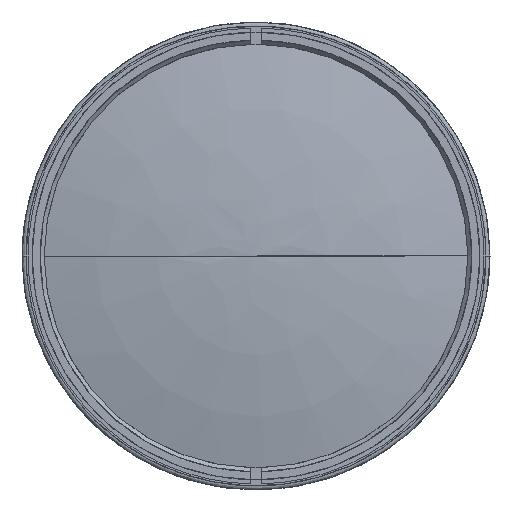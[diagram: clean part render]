
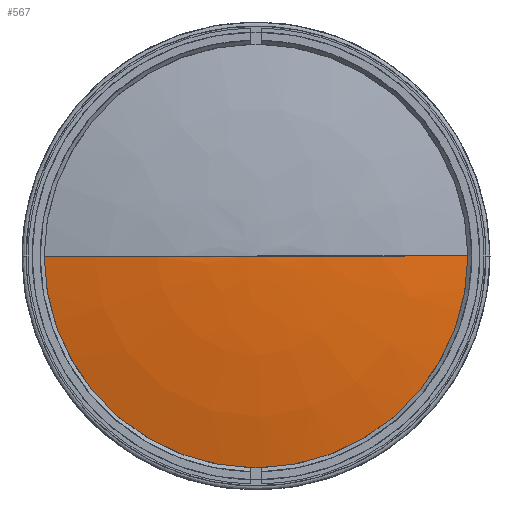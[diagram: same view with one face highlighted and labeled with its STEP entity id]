
A CAD part, left-side view. The second image highlights one B-rep face of the part: STEP entity #567.
In plain terms, the highlighted face is a revolution surface.
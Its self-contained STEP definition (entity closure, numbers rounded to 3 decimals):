
#567 = ADVANCED_FACE('',(#568),#586,.T.);
#568 = FACE_BOUND('',#569,.T.);
#569 = EDGE_LOOP('',(#570,#600,#619,#638));
#570 = ORIENTED_EDGE('',*,*,#571,.F.);
#571 = EDGE_CURVE('',#572,#574,#576,.T.);
#572 = VERTEX_POINT('',#573);
#573 = CARTESIAN_POINT('',(-232.504,0.,
    0.));
#574 = VERTEX_POINT('',#575);
#575 = CARTESIAN_POINT('',(-226.429,55.,
    0.));
#576 = SURFACE_CURVE('',#577,(#585),.PCURVE_S1.);
#577 = ( BOUNDED_CURVE() B_SPLINE_CURVE(6,(#578,#579,#580,#581,#582,#583
,#584),.UNSPECIFIED.,.F.,.F.) B_SPLINE_CURVE_WITH_KNOTS((7,7),(0.,1.),
.PIECEWISE_BEZIER_KNOTS.) CURVE() GEOMETRIC_REPRESENTATION_ITEM() 
RATIONAL_B_SPLINE_CURVE((1.001,1.,1.,
    1.,1.,1.,1.001)) 
REPRESENTATION_ITEM('') );
#578 = CARTESIAN_POINT('',(-232.504,0.,
    0.));
#579 = CARTESIAN_POINT('',(-232.504,9.245,
    0.));
#580 = CARTESIAN_POINT('',(-232.097,18.485,
    0.));
#581 = CARTESIAN_POINT('',(-231.284,27.701,
    0.));
#582 = CARTESIAN_POINT('',(-230.066,36.872,
    0.));
#583 = CARTESIAN_POINT('',(-228.446,45.978,
    0.));
#584 = CARTESIAN_POINT('',(-226.429,55.,
    0.));
#585 = PCURVE('',#586,#595);
#586 = SURFACE_OF_REVOLUTION('',#587,#592);
#587 = CIRCLE('',#588,252.);
#588 = AXIS2_PLACEMENT_3D('',#589,#590,#591);
#589 = CARTESIAN_POINT('',(19.496,0.,0.));
#590 = DIRECTION('',(-0.,0.,1.));
#591 = DIRECTION('',(1.,0.,0.));
#592 = AXIS1_PLACEMENT('',#593,#594);
#593 = CARTESIAN_POINT('',(19.496,0.,0.));
#594 = DIRECTION('',(1.,0.,0.));
#595 = DEFINITIONAL_REPRESENTATION('',(#596),#599);
#596 = B_SPLINE_CURVE_WITH_KNOTS('',1,(#597,#598),.UNSPECIFIED.,.F.,.F.,
  (2,2),(0.,1.),.PIECEWISE_BEZIER_KNOTS.);
#597 = CARTESIAN_POINT('',(6.283,3.142));
#598 = CARTESIAN_POINT('',(6.283,2.922));
#599 = ( GEOMETRIC_REPRESENTATION_CONTEXT(2) 
PARAMETRIC_REPRESENTATION_CONTEXT() REPRESENTATION_CONTEXT('',''
  ) );
#600 = ORIENTED_EDGE('',*,*,#601,.F.);
#601 = EDGE_CURVE('',#602,#572,#604,.T.);
#602 = VERTEX_POINT('',#603);
#603 = CARTESIAN_POINT('',(-232.504,0.,
    0.));
#604 = SURFACE_CURVE('',#605,(#613),.PCURVE_S1.);
#605 = ( BOUNDED_CURVE() B_SPLINE_CURVE(6,(#606,#607,#608,#609,#610,#611
,#612),.UNSPECIFIED.,.F.,.F.) B_SPLINE_CURVE_WITH_KNOTS((7,7),(0.,1.),
.PIECEWISE_BEZIER_KNOTS.) CURVE() GEOMETRIC_REPRESENTATION_ITEM() 
RATIONAL_B_SPLINE_CURVE((1.133,1.036,0.992,
    0.976,0.992,1.036,1.133)) 
REPRESENTATION_ITEM('') );
#606 = CARTESIAN_POINT('',(-232.504,0.,
    0.));
#607 = CARTESIAN_POINT('',(-232.504,0.,
    0.));
#608 = CARTESIAN_POINT('',(-232.504,0.,
    0.));
#609 = CARTESIAN_POINT('',(-232.504,0.,
    0.));
#610 = CARTESIAN_POINT('',(-232.504,0.,
    0.));
#611 = CARTESIAN_POINT('',(-232.504,0.,
    0.));
#612 = CARTESIAN_POINT('',(-232.504,0.,
    0.));
#613 = PCURVE('',#586,#614);
#614 = DEFINITIONAL_REPRESENTATION('',(#615),#618);
#615 = B_SPLINE_CURVE_WITH_KNOTS('',1,(#616,#617),.UNSPECIFIED.,.F.,.F.,
  (2,2),(0.,1.),.PIECEWISE_BEZIER_KNOTS.);
#616 = CARTESIAN_POINT('',(3.142,3.142));
#617 = CARTESIAN_POINT('',(6.283,3.142));
#618 = ( GEOMETRIC_REPRESENTATION_CONTEXT(2) 
PARAMETRIC_REPRESENTATION_CONTEXT() REPRESENTATION_CONTEXT('',''
  ) );
#619 = ORIENTED_EDGE('',*,*,#620,.F.);
#620 = EDGE_CURVE('',#621,#602,#623,.T.);
#621 = VERTEX_POINT('',#622);
#622 = CARTESIAN_POINT('',(-226.429,-55.,
    0.));
#623 = SURFACE_CURVE('',#624,(#632),.PCURVE_S1.);
#624 = ( BOUNDED_CURVE() B_SPLINE_CURVE(6,(#625,#626,#627,#628,#629,#630
,#631),.UNSPECIFIED.,.F.,.F.) B_SPLINE_CURVE_WITH_KNOTS((7,7),(0.,1.),
.PIECEWISE_BEZIER_KNOTS.) CURVE() GEOMETRIC_REPRESENTATION_ITEM() 
RATIONAL_B_SPLINE_CURVE((1.001,1.,1.,
    1.,1.,1.,1.001)) 
REPRESENTATION_ITEM('') );
#625 = CARTESIAN_POINT('',(-226.429,-55.,
    0.));
#626 = CARTESIAN_POINT('',(-228.446,-45.978,
    0.));
#627 = CARTESIAN_POINT('',(-230.066,-36.872,
    0.));
#628 = CARTESIAN_POINT('',(-231.284,-27.701,
    0.));
#629 = CARTESIAN_POINT('',(-232.097,-18.485,
    0.));
#630 = CARTESIAN_POINT('',(-232.504,-9.245,
    0.));
#631 = CARTESIAN_POINT('',(-232.504,0.,
    0.));
#632 = PCURVE('',#586,#633);
#633 = DEFINITIONAL_REPRESENTATION('',(#634),#637);
#634 = B_SPLINE_CURVE_WITH_KNOTS('',1,(#635,#636),.UNSPECIFIED.,.F.,.F.,
  (2,2),(0.,1.),.PIECEWISE_BEZIER_KNOTS.);
#635 = CARTESIAN_POINT('',(3.142,2.922));
#636 = CARTESIAN_POINT('',(3.142,3.142));
#637 = ( GEOMETRIC_REPRESENTATION_CONTEXT(2) 
PARAMETRIC_REPRESENTATION_CONTEXT() REPRESENTATION_CONTEXT('',''
  ) );
#638 = ORIENTED_EDGE('',*,*,#639,.F.);
#639 = EDGE_CURVE('',#574,#621,#640,.T.);
#640 = SURFACE_CURVE('',#641,(#652),.PCURVE_S1.);
#641 = B_SPLINE_CURVE_WITH_KNOTS('',9,(#642,#643,#644,#645,#646,#647,
    #648,#649,#650,#651),.UNSPECIFIED.,.F.,.F.,(10,10),(0.,1.),
  .PIECEWISE_BEZIER_KNOTS.);
#642 = CARTESIAN_POINT('',(-226.429,55.,
    0.));
#643 = CARTESIAN_POINT('',(-226.429,55.,
    -19.199));
#644 = CARTESIAN_POINT('',(-226.429,47.461,
    -38.397));
#645 = CARTESIAN_POINT('',(-226.429,32.382,
    -54.211));
#646 = CARTESIAN_POINT('',(-226.429,11.537,
    -63.263));
#647 = CARTESIAN_POINT('',(-226.429,-11.537,
    -63.263));
#648 = CARTESIAN_POINT('',(-226.429,-32.382,
    -54.211));
#649 = CARTESIAN_POINT('',(-226.429,-47.461,
    -38.397));
#650 = CARTESIAN_POINT('',(-226.429,-55.,
    -19.199));
#651 = CARTESIAN_POINT('',(-226.429,-55.,
    0.));
#652 = PCURVE('',#586,#653);
#653 = DEFINITIONAL_REPRESENTATION('',(#654),#657);
#654 = B_SPLINE_CURVE_WITH_KNOTS('',1,(#655,#656),.UNSPECIFIED.,.F.,.F.,
  (2,2),(0.,1.),.PIECEWISE_BEZIER_KNOTS.);
#655 = CARTESIAN_POINT('',(6.283,2.922));
#656 = CARTESIAN_POINT('',(3.142,2.922));
#657 = ( GEOMETRIC_REPRESENTATION_CONTEXT(2) 
PARAMETRIC_REPRESENTATION_CONTEXT() REPRESENTATION_CONTEXT('',''
  ) );
